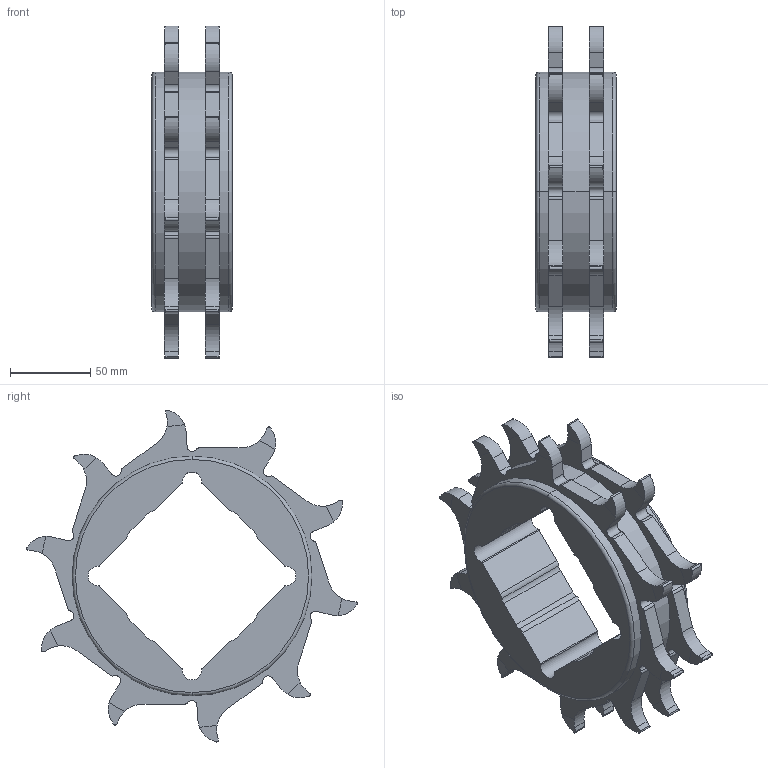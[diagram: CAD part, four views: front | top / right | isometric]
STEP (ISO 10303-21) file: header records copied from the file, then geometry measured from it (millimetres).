
FILE_DESCRIPTION((''),'2;1');
FILE_NAME('T1080','2020-11-28T14:44:41',('MTH'),(''),'CREO PARAMETRIC BY PTC INC, 2020342','CREO PARAMETRIC BY PTC INC, 2020342','');
FILE_SCHEMA(('AUTOMOTIVE_DESIGN { 1 0 10303 214 1 1 1 1 }'));
Length unit declared in the file: millimetre
Products named in the file (1): T1080
Bounding box: 50 x 205.88 x 206.4 mm (x, y, z)
Volume: 558165.4 mm3; surface area: 90777.4 mm2
Topology: 1 solids, 1 shells, 534 faces, 1585 edges, 1072 vertices
Faces by surface type: plane 315, cylinder 175, cone 40, torus 4
Entity records: 26038 total; most frequent: CARTESIAN_POINT 5830, ORIENTED_EDGE 3076, DIRECTION 3056, PRESENTATION_STYLE_ASSIGNMENT 1626, STYLED_ITEM 1590, CURVE_STYLE 1589, EDGE_CURVE 1538, AXIS2_PLACEMENT_3D 1049
